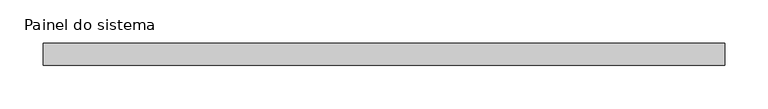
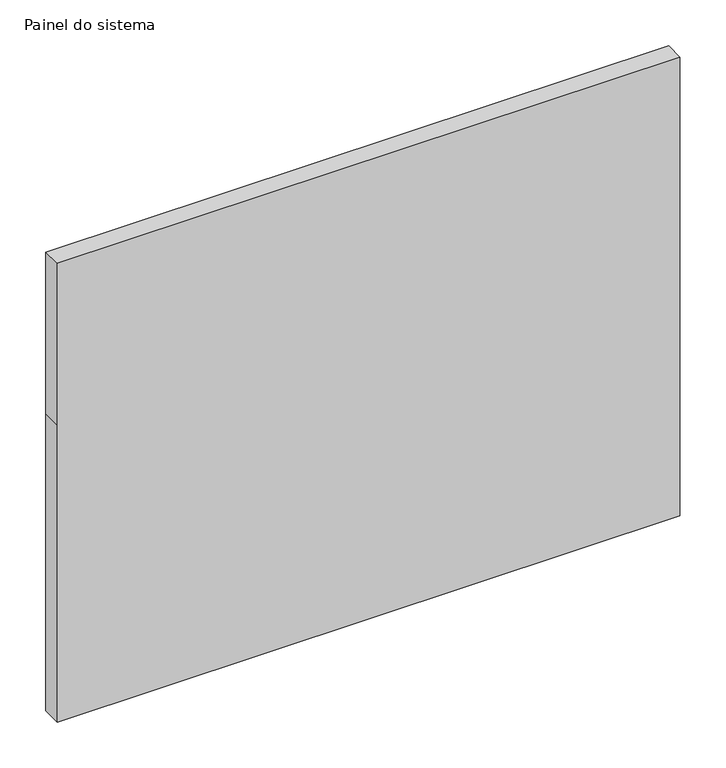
"""IFC4 building model written with IfcOpenShell, lengths in millimetres: plate geometry, Painel do sistema : Envidraçado."""

from ifc_helpers import new_model, si_unit, frame, origin, place, context, project, spatial, polyline, outline, extrude, source, transform, mapped, element, save


def painel_do_sistema_04dd6505(model_context):
    return source(origin(), model_context, "Body", "SweptSolid", [
        extrude(outline(polyline([(0.0, -391.65), (0.0, 391.65), (395.0, 391.65), (610.0, 391.65), (610.0, -391.65), (395.0, -391.65), (0.0, -391.65)])), frame((0.0, 24.5, 0.0), z_axis=(0.0, 1.0, 0.0), x_axis=(0.0, 0.0, 1.0)), (0.0, 0.0, 1.0), 25.0),
    ])


if __name__ == "__main__":
    model = new_model("IFC4")
    model_context = context("Model", 3, world=origin())
    ifc_project = project(units=[si_unit("LENGTHUNIT", "METRE", prefix="MILLI")], contexts=[model_context])
    site = spatial("IfcSite", under=ifc_project)
    building = spatial("IfcBuilding", under=site)
    placement = place(None, origin())
    painel_do_sistema_shape = painel_do_sistema_04dd6505(model_context)
    element("IfcPlate", 1, ObjectType="Painel do sistema : Envidraçado", at=placement, inside=building, context=model_context, shape_type="MappedRepresentation", body=[
        mapped(painel_do_sistema_shape, transform((0.0, 0.0, 0.0), x_axis=(1.0, 0.0, 0.0), y_axis=(0.0, 1.0, 0.0), z_axis=(0.0, 0.0, 1.0))),
    ])
    save(model, "model.ifc")
